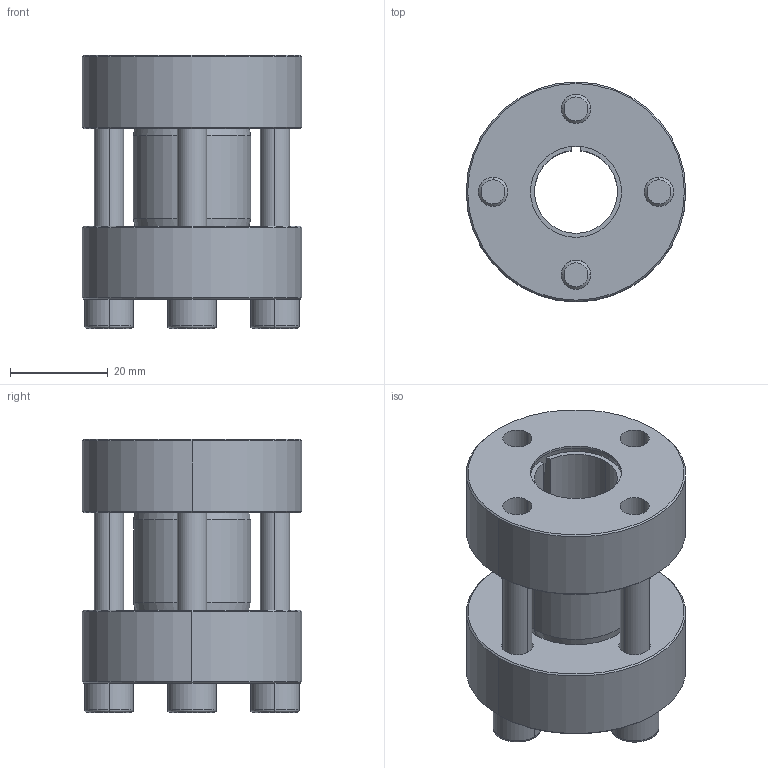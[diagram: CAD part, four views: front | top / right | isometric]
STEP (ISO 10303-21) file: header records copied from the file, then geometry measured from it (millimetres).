
FILE_DESCRIPTION (( 'STEP AP214' ), '1' );
FILE_NAME ('CONEX-M-17x45-M.007.step', '2014-07-01T12:12:32', ( 'Pc' ), ( '' ), 'SwSTEP 2.0', 'SolidWorks 2013', '' );
FILE_SCHEMA (( 'AUTOMOTIVE_DESIGN' ));
Length unit declared in the file: millimetre
Products named in the file (1): CONEX-M-17x45-M.007
Bounding box: 45 x 45 x 55.97 mm (x, y, z)
Volume: 47931.2 mm3; surface area: 23911.7 mm2
Topology: 7 solids, 7 shells, 164 faces, 366 edges, 216 vertices
Faces by surface type: plane 68, cylinder 46, cone 34, torus 16
Entity records: 6423 total; most frequent: DIRECTION 858, CARTESIAN_POINT 766, ORIENTED_EDGE 716, EDGE_CURVE 358, AXIS2_PLACEMENT_3D 339, VERTEX_POINT 216, EDGE_LOOP 192, VECTOR 180
